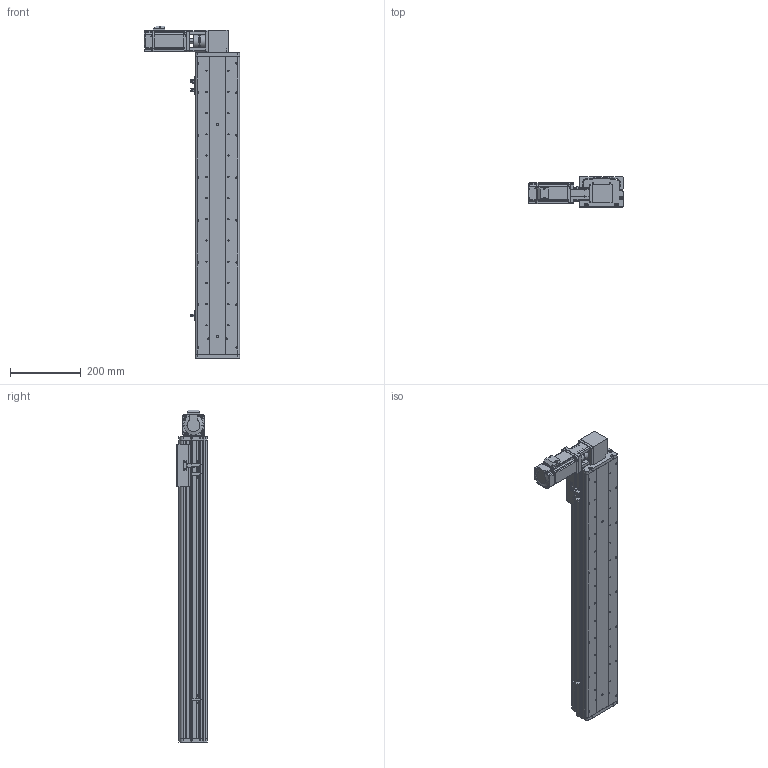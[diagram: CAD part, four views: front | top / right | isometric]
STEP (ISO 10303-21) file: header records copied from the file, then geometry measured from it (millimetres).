
FILE_DESCRIPTION (( 'STEP AP214' ), '1' );
FILE_NAME ('KSD125B-S650-MRT-CM.STEP', '2017-08-07T07:27:00', ( '微软用户' ), ( '微软中国' ), 'SwSTEP 2.0', 'SolidWorks 2014', '' );
FILE_SCHEMA (( 'AUTOMOTIVE_DESIGN' ));
Length unit declared in the file: millimetre
Products named in the file (16): KSD125模组同步带-防撞垫2; CS-34X32-10X14; 100遵鎮湛假蚾啣1 ; 覜茼え68遵圉猾敕; U倰嫖萇假蚾璃; U倰嫖萇EEㄜSX672; KSD125模组同步带-防撞垫1; 100宽安装板同步带带电机座400W,86; 100宽马达安装板同步带右; 前端板-125宽模组同步带; 125模组同步带-尾端板1; KSD125模组同步带-滑动座1; KSD125B-S650-MRT-CM; KSD125模组650行程同步带-防尘盖; 125模组650行程同步带-底板; MHMD042G1CA_2_03
Assembly tree (19 placements, depth 2):
  KSD125B-S650-MRT-CM
    KSD125模组同步带-滑动座1
    125模组同步带-尾端板1
    前端板-125宽模组同步带
    100宽马达安装板同步带右
    100宽安装板同步带带电机座400W,86
    KSD125模组同步带-防撞垫1
    U倰嫖萇EEㄜSX672  x3
    U倰嫖萇假蚾璃  x3
    覜茼え68遵圉猾敕
    100遵鎮湛假蚾啣1 
    CS-34X32-10X14
    KSD125模组同步带-防撞垫2
    MHMD042G1CA_2_03
    125模组650行程同步带-底板
    KSD125模组650行程同步带-防尘盖
Bounding box: 269 x 86 x 939 mm (x, y, z)
Volume: 2973802.6 mm3; surface area: 994315.3 mm2
Topology: 18 solids, 21 shells, 1670 faces, 4786 edges, 3156 vertices
Faces by surface type: cylinder 865, plane 702, cone 81, bspline 22
Entity records: 58542 total; most frequent: CARTESIAN_POINT 11876, DIRECTION 8565, ORIENTED_EDGE 8092, EDGE_CURVE 4124, AXIS2_PLACEMENT_3D 3177, VERTEX_POINT 2748, LINE 2211, VECTOR 2211
